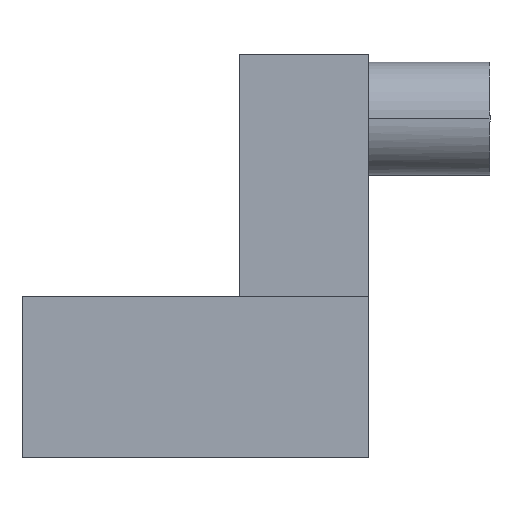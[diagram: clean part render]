
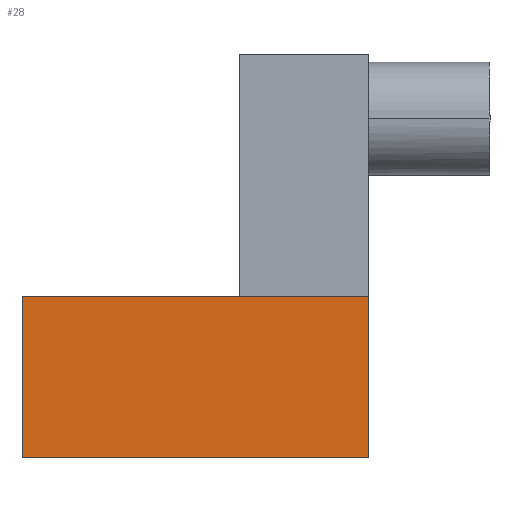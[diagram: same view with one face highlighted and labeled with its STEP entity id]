
A CAD part, front view. The second image highlights one B-rep face of the part: STEP entity #28.
In plain terms, the highlighted planar face has unit normal (0, -1, 0).
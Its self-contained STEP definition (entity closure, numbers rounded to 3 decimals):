
#28=ADVANCED_FACE('',(#48),#598,.T.);
#48=FACE_OUTER_BOUND('',#68,.T.);
#68=EDGE_LOOP('',(#98,#99,#100,#101));
#98=ORIENTED_EDGE('',*,*,#423,.T.);
#99=ORIENTED_EDGE('',*,*,#424,.T.);
#100=ORIENTED_EDGE('',*,*,#425,.T.);
#101=ORIENTED_EDGE('',*,*,#421,.F.);
#206=PCURVE('',#597,#292);
#208=PCURVE('',#598,#294);
#209=PCURVE('',#598,#295);
#210=PCURVE('',#598,#296);
#211=PCURVE('',#598,#297);
#215=PCURVE('',#599,#301);
#222=PCURVE('',#601,#308);
#231=PCURVE('',#602,#317);
#292=DEFINITIONAL_REPRESENTATION('',(#471),#1278);
#294=DEFINITIONAL_REPRESENTATION('',(#475),#1278);
#295=DEFINITIONAL_REPRESENTATION('',(#477),#1278);
#296=DEFINITIONAL_REPRESENTATION('',(#479),#1278);
#297=DEFINITIONAL_REPRESENTATION('',(#480),#1278);
#301=DEFINITIONAL_REPRESENTATION('',(#487),#1278);
#308=DEFINITIONAL_REPRESENTATION('',(#496),#1278);
#317=DEFINITIONAL_REPRESENTATION('',(#506),#1278);
#378=SURFACE_CURVE('',#470,(#206,#211),.PCURVE_S1.);
#380=SURFACE_CURVE('',#474,(#208,#222),.PCURVE_S1.);
#381=SURFACE_CURVE('',#476,(#209,#215),.PCURVE_S1.);
#382=SURFACE_CURVE('',#478,(#210,#231),.PCURVE_S1.);
#421=EDGE_CURVE('',#564,#565,#378,.T.);
#423=EDGE_CURVE('',#564,#567,#380,.T.);
#424=EDGE_CURVE('',#567,#568,#381,.T.);
#425=EDGE_CURVE('',#568,#565,#382,.T.);
#470=B_SPLINE_CURVE_WITH_KNOTS('',1,(#839,#840),.UNSPECIFIED.,.F.,.F.,(2,
2),(0.,43.),.UNSPECIFIED.);
#471=B_SPLINE_CURVE_WITH_KNOTS('',1,(#841,#842),.UNSPECIFIED.,.F.,.F.,(2,
2),(0.,43.),.UNSPECIFIED.);
#474=B_SPLINE_CURVE_WITH_KNOTS('',1,(#847,#848),.UNSPECIFIED.,.F.,.F.,(2,
2),(20.,40.),.UNSPECIFIED.);
#475=B_SPLINE_CURVE_WITH_KNOTS('',1,(#849,#850),.UNSPECIFIED.,.F.,.F.,(2,
2),(20.,40.),.UNSPECIFIED.);
#476=B_SPLINE_CURVE_WITH_KNOTS('',1,(#851,#852),.UNSPECIFIED.,.F.,.F.,(2,
2),(0.,43.),.UNSPECIFIED.);
#477=B_SPLINE_CURVE_WITH_KNOTS('',1,(#853,#854),.UNSPECIFIED.,.F.,.F.,(2,
2),(0.,43.),.UNSPECIFIED.);
#478=B_SPLINE_CURVE_WITH_KNOTS('',1,(#855,#856),.UNSPECIFIED.,.F.,.F.,(2,
2),(-40.,-20.),.UNSPECIFIED.);
#479=B_SPLINE_CURVE_WITH_KNOTS('',1,(#857,#858),.UNSPECIFIED.,.F.,.F.,(2,
2),(-40.,-20.),.UNSPECIFIED.);
#480=B_SPLINE_CURVE_WITH_KNOTS('',1,(#859,#860),.UNSPECIFIED.,.F.,.F.,(2,
2),(0.,43.),.UNSPECIFIED.);
#487=B_SPLINE_CURVE_WITH_KNOTS('',1,(#873,#874),.UNSPECIFIED.,.F.,.F.,(2,
2),(0.,43.),.UNSPECIFIED.);
#496=B_SPLINE_CURVE_WITH_KNOTS('',1,(#891,#892),.UNSPECIFIED.,.F.,.F.,(2,
2),(20.,40.),.UNSPECIFIED.);
#506=B_SPLINE_CURVE_WITH_KNOTS('',1,(#951,#952),.UNSPECIFIED.,.F.,.F.,(2,
2),(-40.,-20.),.UNSPECIFIED.);
#564=VERTEX_POINT('',#788);
#565=VERTEX_POINT('',#789);
#567=VERTEX_POINT('',#791);
#568=VERTEX_POINT('',#792);
#597=PLANE('',#631);
#598=PLANE('',#632);
#599=PLANE('',#633);
#601=PLANE('',#635);
#602=PLANE('',#636);
#631=AXIS2_PLACEMENT_3D('',#665,#648,$);
#632=AXIS2_PLACEMENT_3D('',#666,#649,$);
#633=AXIS2_PLACEMENT_3D('',#667,#650,$);
#635=AXIS2_PLACEMENT_3D('',#669,#652,$);
#636=AXIS2_PLACEMENT_3D('',#670,#653,$);
#648=DIRECTION('',(0.,0.,1.));
#649=DIRECTION('',(0.,-1.,0.));
#650=DIRECTION('',(0.,0.,-1.));
#652=DIRECTION('',(-1.,0.,0.));
#653=DIRECTION('',(1.,0.,0.));
#665=CARTESIAN_POINT('',(-19.,405.,-140.));
#666=CARTESIAN_POINT('',(-19.,385.,-140.));
#667=CARTESIAN_POINT('',(-19.,385.,-160.));
#669=CARTESIAN_POINT('',(-19.,385.,-160.));
#670=CARTESIAN_POINT('',(24.,385.,-160.));
#788=CARTESIAN_POINT('',(-19.,385.,-140.));
#789=CARTESIAN_POINT('',(24.,385.,-140.));
#791=CARTESIAN_POINT('',(-19.,385.,-160.));
#792=CARTESIAN_POINT('',(24.,385.,-160.));
#839=CARTESIAN_POINT('',(-19.,385.,-140.));
#840=CARTESIAN_POINT('',(24.,385.,-140.));
#841=CARTESIAN_POINT('',(20.,0.));
#842=CARTESIAN_POINT('',(20.,43.));
#847=CARTESIAN_POINT('',(-19.,385.,-140.));
#848=CARTESIAN_POINT('',(-19.,385.,-160.));
#849=CARTESIAN_POINT('',(20.,0.));
#850=CARTESIAN_POINT('',(40.,0.));
#851=CARTESIAN_POINT('',(-19.,385.,-160.));
#852=CARTESIAN_POINT('',(24.,385.,-160.));
#853=CARTESIAN_POINT('',(40.,0.));
#854=CARTESIAN_POINT('',(40.,43.));
#855=CARTESIAN_POINT('',(24.,385.,-160.));
#856=CARTESIAN_POINT('',(24.,385.,-140.));
#857=CARTESIAN_POINT('',(40.,43.));
#858=CARTESIAN_POINT('',(20.,43.));
#859=CARTESIAN_POINT('',(20.,0.));
#860=CARTESIAN_POINT('',(20.,43.));
#873=CARTESIAN_POINT('',(40.,0.));
#874=CARTESIAN_POINT('',(40.,43.));
#891=CARTESIAN_POINT('',(0.,-20.));
#892=CARTESIAN_POINT('',(-20.,-20.));
#951=CARTESIAN_POINT('',(-20.,-20.));
#952=CARTESIAN_POINT('',(-20.,0.));
#1278=(
GEOMETRIC_REPRESENTATION_CONTEXT(2)
PARAMETRIC_REPRESENTATION_CONTEXT()
REPRESENTATION_CONTEXT('pspace','')
);
